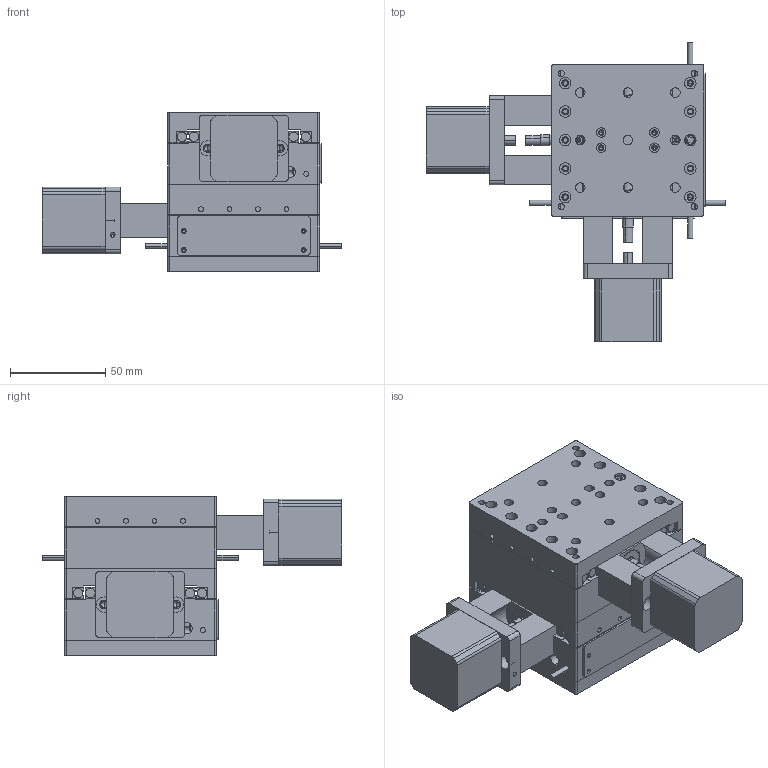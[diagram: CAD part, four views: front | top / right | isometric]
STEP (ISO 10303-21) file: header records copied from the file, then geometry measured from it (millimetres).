
FILE_DESCRIPTION (( 'STEP AP203' ), '1' );
FILE_NAME ('XY-30呶.STEP', '2026-06-23T14:16:16', ( '' ), ( '' ), 'SwSTEP 2.0', 'SolidWorks 2024', '' );
FILE_SCHEMA (( 'CONFIG_CONTROL_DESIGN' ));
Length unit declared in the file: millimetre
Products named in the file (3): 30㎜; XY-30㎜; 垫装板
Assembly tree (3 placements, depth 2):
  XY-30㎜
    垫装板
    30㎜  x2
Bounding box: 157.5 x 157.5 x 84 mm (x, y, z)
Volume: 520743.8 mm3; surface area: 191246.3 mm2
Topology: 35 solids, 35 shells, 1642 faces, 4166 edges, 2668 vertices
Faces by surface type: cylinder 950, plane 542, cone 138, torus 8, bspline 4
Entity records: 29860 total; most frequent: CARTESIAN_POINT 8402, DIRECTION 4673, ORIENTED_EDGE 4158, EDGE_CURVE 2079, AXIS2_PLACEMENT_3D 1816, VERTEX_POINT 1366, EDGE_LOOP 1131, LINE 1041
